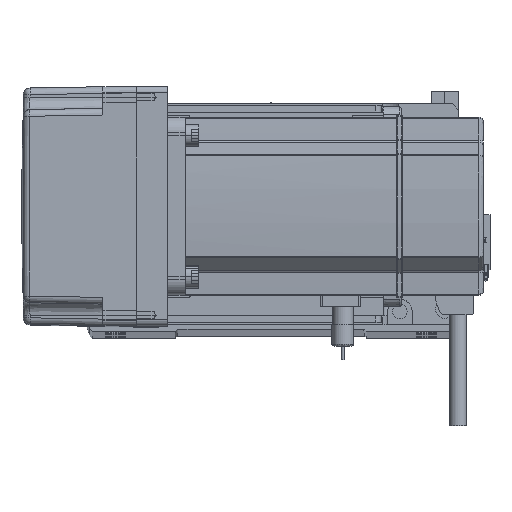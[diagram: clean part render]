
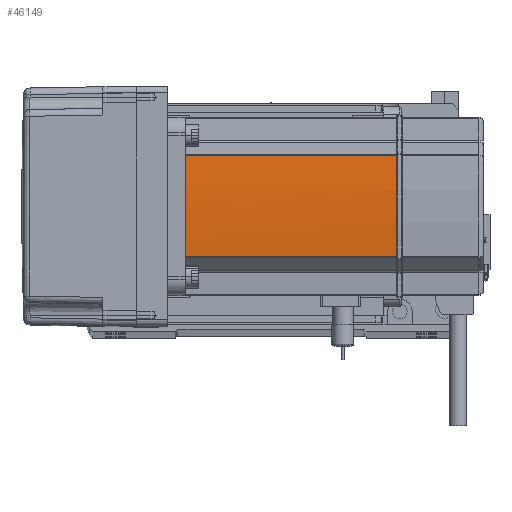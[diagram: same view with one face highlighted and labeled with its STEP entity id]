
A CAD part, top view. The second image highlights one B-rep face of the part: STEP entity #46149.
In plain terms, the highlighted cylindrical face has radius 270 mm (diameter 540 mm), a partial arc.
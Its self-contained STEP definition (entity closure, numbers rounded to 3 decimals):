
#743 = DIRECTION ( 'NONE',  ( -1., 0., 0. ) ) ;
#3103 = EDGE_CURVE ( 'NONE', #44063, #9527, #39769, .T. ) ;
#4207 = DIRECTION ( 'NONE',  ( 0., 0., -1. ) ) ;
#4410 = CYLINDRICAL_SURFACE ( 'NONE', #40527, 270. ) ;
#7475 = DIRECTION ( 'NONE',  ( -1., 0., 0. ) ) ;
#7665 = LINE ( 'NONE', #59343, #52067 ) ;
#7683 = CARTESIAN_POINT ( 'NONE',  ( -230., 0., 134. ) ) ;
#8386 = CARTESIAN_POINT ( 'NONE',  ( 40., 0.127, 134. ) ) ;
#9527 = VERTEX_POINT ( 'NONE', #8386 ) ;
#9643 = CARTESIAN_POINT ( 'NONE',  ( 39.042, -22.724, 134. ) ) ;
#9925 = CIRCLE ( 'NONE', #54522, 270. ) ;
#10722 = CARTESIAN_POINT ( 'NONE',  ( 40., 0.127, 134. ) ) ;
#11671 = EDGE_LOOP ( 'NONE', ( #15740, #52390, #44984, #46219, #52223, #33323 ) ) ;
#11707 = DIRECTION ( 'NONE',  ( 0., 0., -1. ) ) ;
#15276 = CARTESIAN_POINT ( 'NONE',  ( 40., -0.127, 134. ) ) ;
#15740 = ORIENTED_EDGE ( 'NONE', *, *, #60476, .T. ) ;
#17401 = DIRECTION ( 'NONE',  ( 0., 0., -1. ) ) ;
#18204 = EDGE_CURVE ( 'NONE', #32019, #9527, #59895, .T. ) ;
#23065 = CARTESIAN_POINT ( 'NONE',  ( -230., 0., 58. ) ) ;
#25499 = DIRECTION ( 'NONE',  ( 0., 0., -1. ) ) ;
#27325 = LINE ( 'NONE', #45221, #52436 ) ;
#28163 = VERTEX_POINT ( 'NONE', #39242 ) ;
#31153 = VERTEX_POINT ( 'NONE', #41326 ) ;
#32019 = VERTEX_POINT ( 'NONE', #39696 ) ;
#32603 = AXIS2_PLACEMENT_3D ( 'NONE', #7683, #17401, #7475 ) ;
#33323 = ORIENTED_EDGE ( 'NONE', *, *, #38817, .T. ) ;
#33779 = CARTESIAN_POINT ( 'NONE',  ( -230., 0., 39. ) ) ;
#38139 = DIRECTION ( 'NONE',  ( 0., 0., -1. ) ) ;
#38475 = CARTESIAN_POINT ( 'NONE',  ( 40., -0.042, 134. ) ) ;
#38817 = EDGE_CURVE ( 'NONE', #32019, #40705, #46863, .T. ) ;
#39242 = CARTESIAN_POINT ( 'NONE',  ( 39.042, 22.724, 39. ) ) ;
#39696 = CARTESIAN_POINT ( 'NONE',  ( 40., -0.127, 134. ) ) ;
#39769 = CIRCLE ( 'NONE', #32603, 270. ) ;
#40527 = AXIS2_PLACEMENT_3D ( 'NONE', #23065, #4207, #42046 ) ;
#40705 = VERTEX_POINT ( 'NONE', #9643 ) ;
#41326 = CARTESIAN_POINT ( 'NONE',  ( 39.042, -22.724, 39. ) ) ;
#42046 = DIRECTION ( 'NONE',  ( -1., 0., 0. ) ) ;
#43373 = CARTESIAN_POINT ( 'NONE',  ( 39.042, 22.724, 134. ) ) ;
#44063 = VERTEX_POINT ( 'NONE', #43373 ) ;
#44984 = ORIENTED_EDGE ( 'NONE', *, *, #50180, .T. ) ;
#45221 = CARTESIAN_POINT ( 'NONE',  ( 39.042, -22.724, 58. ) ) ;
#45308 = DIRECTION ( 'NONE',  ( 0., 0., 1. ) ) ;
#46149 = ADVANCED_FACE ( 'NONE', ( #48074 ), #4410, .T. ) ;
#46219 = ORIENTED_EDGE ( 'NONE', *, *, #3103, .T. ) ;
#46863 = CIRCLE ( 'NONE', #61090, 270. ) ;
#48074 = FACE_OUTER_BOUND ( 'NONE', #11671, .T. ) ;
#49848 = EDGE_CURVE ( 'NONE', #28163, #31153, #9925, .T. ) ;
#50180 = EDGE_CURVE ( 'NONE', #28163, #44063, #7665, .T. ) ;
#52067 = VECTOR ( 'NONE', #45308, 1000. ) ;
#52223 = ORIENTED_EDGE ( 'NONE', *, *, #18204, .F. ) ;
#52390 = ORIENTED_EDGE ( 'NONE', *, *, #49848, .F. ) ;
#52436 = VECTOR ( 'NONE', #11707, 1000. ) ;
#53097 = CARTESIAN_POINT ( 'NONE',  ( 40., 0.042, 134. ) ) ;
#53539 = CARTESIAN_POINT ( 'NONE',  ( -230., 0., 134. ) ) ;
#54522 = AXIS2_PLACEMENT_3D ( 'NONE', #33779, #38139, #743 ) ;
#58519 = DIRECTION ( 'NONE',  ( -1., 0., 0. ) ) ;
#59343 = CARTESIAN_POINT ( 'NONE',  ( 39.042, 22.724, 58. ) ) ;
#59895 = B_SPLINE_CURVE_WITH_KNOTS ( 'NONE', 3,
 ( #15276, #38475, #53097, #10722 ),
 .UNSPECIFIED., .F., .F.,
 ( 4, 4 ),
 ( 0., 1. ),
 .UNSPECIFIED. ) ;
#60476 = EDGE_CURVE ( 'NONE', #40705, #31153, #27325, .T. ) ;
#61090 = AXIS2_PLACEMENT_3D ( 'NONE', #53539, #25499, #58519 ) ;
